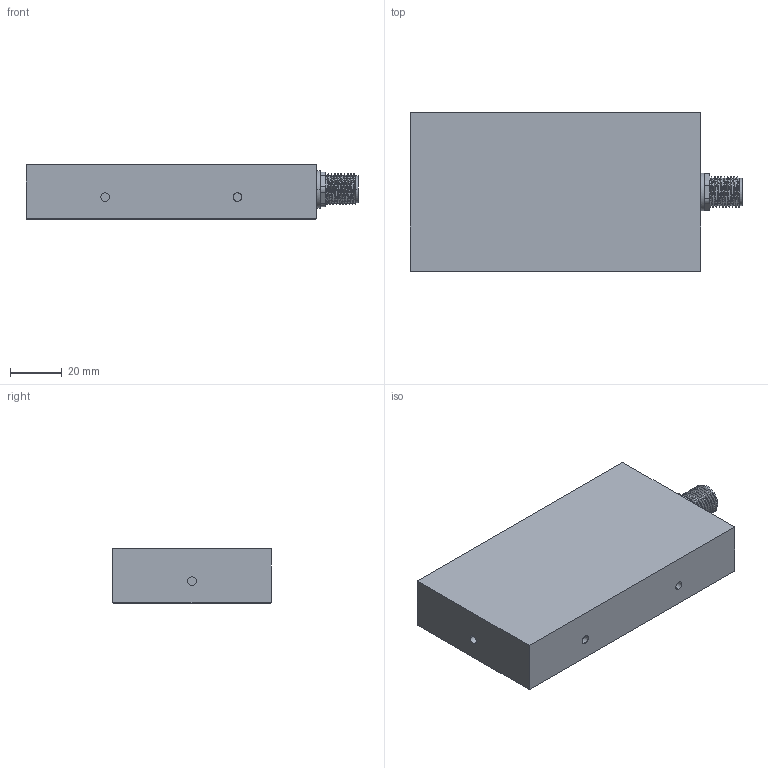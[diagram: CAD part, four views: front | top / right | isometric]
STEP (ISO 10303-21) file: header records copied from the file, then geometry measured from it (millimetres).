
FILE_DESCRIPTION (( 'STEP AP214' ), '1' );
FILE_NAME ('CSBACKII-xxxx-xxx_CLIENT1005.STEP', '2022-04-01T09:18:28', ( '' ), ( '' ), 'SwSTEP 2.0', 'SolidWorks 2020', '' );
FILE_SCHEMA (( 'AUTOMOTIVE_DESIGN' ));
Length unit declared in the file: millimetre
Products named in the file (1): CSBACKII-xxxx-xxx_CLIENT1005
Bounding box: 128 x 61 x 21.06 mm (x, y, z)
Volume: 144925.1 mm3; surface area: 22503.6 mm2
Topology: 1 solids, 2 shells, 310 faces, 783 edges, 514 vertices
Faces by surface type: plane 166, bspline 83, cylinder 53, torus 8
Entity records: 14834 total; most frequent: CARTESIAN_POINT 7937, ORIENTED_EDGE 1566, DIRECTION 1139, EDGE_CURVE 783, VERTEX_POINT 514, LINE 467, VECTOR 467, EDGE_LOOP 347
